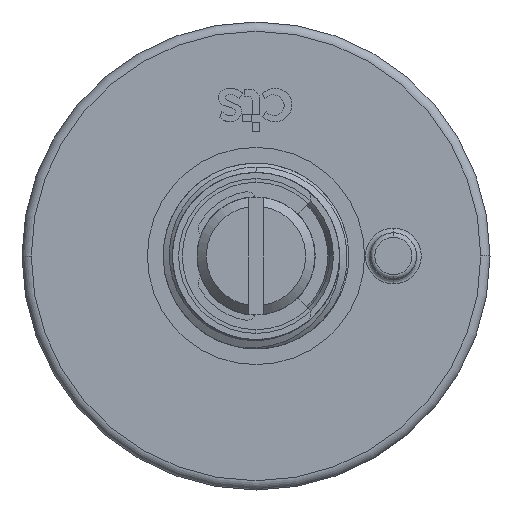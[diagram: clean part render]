
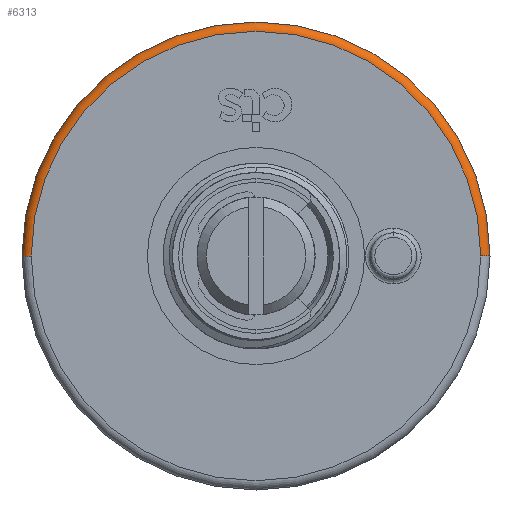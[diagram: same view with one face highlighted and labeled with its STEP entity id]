
A CAD part, front view. The second image highlights one B-rep face of the part: STEP entity #6313.
In plain terms, the highlighted toroidal (fillet/blend) face has major radius 12.101 mm and minor radius 0.5 mm.
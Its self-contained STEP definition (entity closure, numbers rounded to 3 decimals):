
#196 = CARTESIAN_POINT ( 'NONE',  ( 12.101, 0., 0. ) ) ;
#204 = CIRCLE ( 'NONE', #7328, 0.5 ) ;
#614 = AXIS2_PLACEMENT_3D ( 'NONE', #4329, #6568, #11576 ) ;
#636 = TOROIDAL_SURFACE ( 'NONE', #2466, 12.101, 0.5 ) ;
#696 = EDGE_LOOP ( 'NONE', ( #4165, #9397, #10669, #7807 ) ) ;
#974 = VERTEX_POINT ( 'NONE', #196 ) ;
#1880 = AXIS2_PLACEMENT_3D ( 'NONE', #8394, #2097, #7116 ) ;
#2097 = DIRECTION ( 'NONE',  ( 0., 1., 0. ) ) ;
#2466 = AXIS2_PLACEMENT_3D ( 'NONE', #9955, #7794, #3762 ) ;
#2940 = CARTESIAN_POINT ( 'NONE',  ( 12.101, 0.5, 0. ) ) ;
#3288 = EDGE_CURVE ( 'NONE', #974, #3315, #16160, .T. ) ;
#3315 = VERTEX_POINT ( 'NONE', #7302 ) ;
#3728 = CIRCLE ( 'NONE', #1880, 12.601 ) ;
#3762 = DIRECTION ( 'NONE',  ( -1., 0., 0. ) ) ;
#4081 = VERTEX_POINT ( 'NONE', #13731 ) ;
#4165 = ORIENTED_EDGE ( 'NONE', *, *, #5644, .T. ) ;
#4205 = EDGE_CURVE ( 'NONE', #8289, #3315, #3728, .T. ) ;
#4257 = DIRECTION ( 'NONE',  ( 0., 0., -1. ) ) ;
#4329 = CARTESIAN_POINT ( 'NONE',  ( 0., 0., 0. ) ) ;
#5644 = EDGE_CURVE ( 'NONE', #4081, #974, #6123, .T. ) ;
#6123 = CIRCLE ( 'NONE', #614, 12.101 ) ;
#6313 = ADVANCED_FACE ( 'NONE', ( #11264 ), #636, .T. ) ;
#6568 = DIRECTION ( 'NONE',  ( 0., 1., 0. ) ) ;
#6730 = DIRECTION ( 'NONE',  ( 0., 0., 1. ) ) ;
#6824 = DIRECTION ( 'NONE',  ( -1., 0., 0. ) ) ;
#7116 = DIRECTION ( 'NONE',  ( -1., 0., 0. ) ) ;
#7302 = CARTESIAN_POINT ( 'NONE',  ( 12.601, 0.504, 0. ) ) ;
#7328 = AXIS2_PLACEMENT_3D ( 'NONE', #11588, #4257, #6824 ) ;
#7794 = DIRECTION ( 'NONE',  ( 0., 1., 0. ) ) ;
#7807 = ORIENTED_EDGE ( 'NONE', *, *, #12562, .F. ) ;
#7990 = DIRECTION ( 'NONE',  ( 1., 0., 0. ) ) ;
#8289 = VERTEX_POINT ( 'NONE', #11135 ) ;
#8394 = CARTESIAN_POINT ( 'NONE',  ( 0., 0.504, 0. ) ) ;
#9082 = AXIS2_PLACEMENT_3D ( 'NONE', #2940, #6730, #7990 ) ;
#9397 = ORIENTED_EDGE ( 'NONE', *, *, #3288, .T. ) ;
#9955 = CARTESIAN_POINT ( 'NONE',  ( 0., 0.5, 0. ) ) ;
#10669 = ORIENTED_EDGE ( 'NONE', *, *, #4205, .F. ) ;
#11135 = CARTESIAN_POINT ( 'NONE',  ( -12.601, 0.504, 0. ) ) ;
#11264 = FACE_OUTER_BOUND ( 'NONE', #696, .T. ) ;
#11576 = DIRECTION ( 'NONE',  ( -1., 0., 0. ) ) ;
#11588 = CARTESIAN_POINT ( 'NONE',  ( -12.101, 0.5, 0. ) ) ;
#12562 = EDGE_CURVE ( 'NONE', #4081, #8289, #204, .T. ) ;
#13731 = CARTESIAN_POINT ( 'NONE',  ( -12.101, 0., 0. ) ) ;
#16160 = CIRCLE ( 'NONE', #9082, 0.5 ) ;
